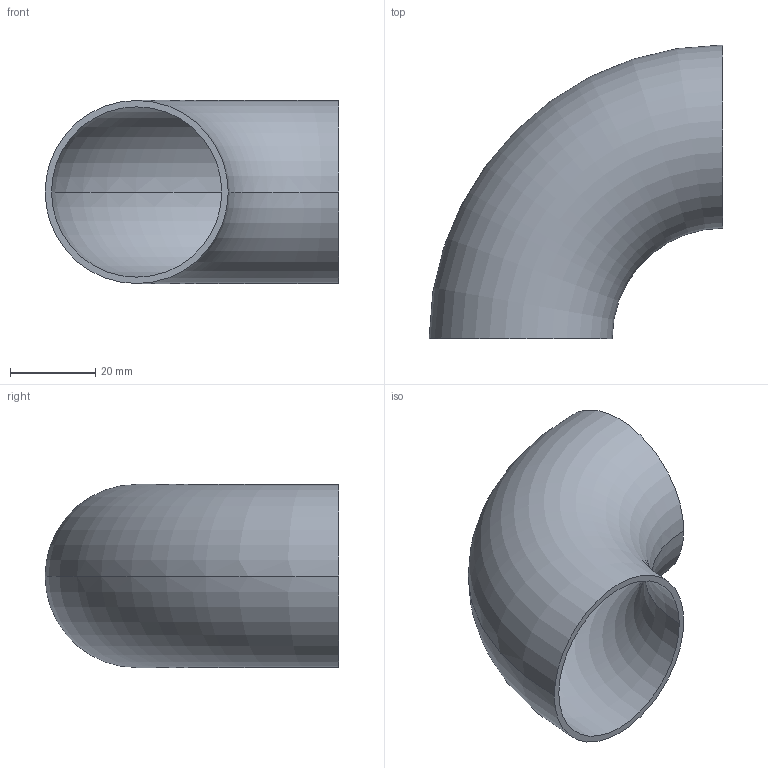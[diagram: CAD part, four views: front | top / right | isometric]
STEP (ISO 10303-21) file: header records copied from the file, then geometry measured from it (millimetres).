
FILE_DESCRIPTION (( 'STEP AP203' ), '1' );
FILE_NAME ('OT212-40-43x1_5_OSTP.step', '2020-12-16T02:16:47', ( '' ), ( '' ), 'SwSTEP 2.0', 'SolidWorks 2014', '' );
FILE_SCHEMA (( 'CONFIG_CONTROL_DESIGN' ));
Length unit declared in the file: millimetre
Products named in the file (1): OT212-40-43x1_5_OSTP
Bounding box: 69 x 69 x 43 mm (x, y, z)
Volume: 14591.6 mm3; surface area: 19846.6 mm2
Topology: 1 solids, 1 shells, 6 faces, 12 edges, 8 vertices
Faces by surface type: torus 4, plane 2
Entity records: 249 total; most frequent: DIRECTION 38, CARTESIAN_POINT 27, ORIENTED_EDGE 24, AXIS2_PLACEMENT_3D 19, EDGE_CURVE 12, CIRCLE 12, PERSON_AND_ORGANIZATION 8, VERTEX_POINT 8
